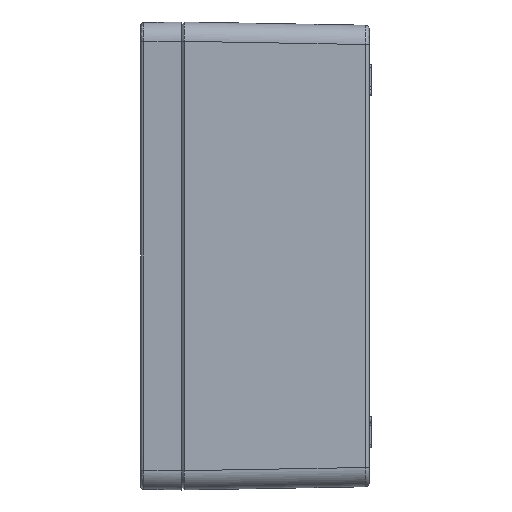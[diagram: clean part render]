
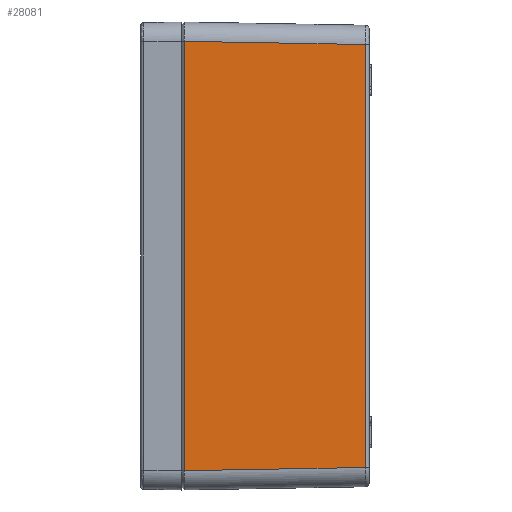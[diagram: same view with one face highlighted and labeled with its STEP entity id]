
A CAD part, left-side view. The second image highlights one B-rep face of the part: STEP entity #28081.
In plain terms, the highlighted planar face has unit normal (-1, -0.018, 0).
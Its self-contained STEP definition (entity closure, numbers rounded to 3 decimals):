
#2297 = ORIENTED_EDGE ( 'NONE', *, *, #21468, .T. ) ;
#2309 = EDGE_LOOP ( 'NONE', ( #20182, #2297, #40724, #31883 ) ) ;
#2327 = CARTESIAN_POINT ( 'NONE',  ( -165.224, -1.5, -105.725 ) ) ;
#2533 = LINE ( 'NONE', #2327, #29117 ) ;
#4069 = CARTESIAN_POINT ( 'NONE',  ( -165.224, -1.5, -115.25 ) ) ;
#4327 = CARTESIAN_POINT ( 'NONE',  ( -163.67, -90.535, 104.171 ) ) ;
#4360 = AXIS2_PLACEMENT_3D ( 'NONE', #19153, #35037, #15506 ) ;
#4964 = EDGE_CURVE ( 'NONE', #12640, #13275, #36257, .T. ) ;
#6787 = EDGE_CURVE ( 'NONE', #31634, #12640, #34319, .T. ) ;
#8358 = DIRECTION ( 'NONE',  ( 0.017, -1., -0.017 ) ) ;
#10282 = LINE ( 'NONE', #4069, #33454 ) ;
#11973 = CARTESIAN_POINT ( 'NONE',  ( -165.224, -1.5, -105.725 ) ) ;
#12640 = VERTEX_POINT ( 'NONE', #4327 ) ;
#13275 = VERTEX_POINT ( 'NONE', #40224 ) ;
#13326 = VECTOR ( 'NONE', #8358, 1000. ) ;
#13719 = DIRECTION ( 'NONE',  ( 0., 0., -1. ) ) ;
#15506 = DIRECTION ( 'NONE',  ( 0.017, -1., 0. ) ) ;
#15724 = FACE_OUTER_BOUND ( 'NONE', #2309, .T. ) ;
#16316 = VERTEX_POINT ( 'NONE', #11973 ) ;
#16715 = DIRECTION ( 'NONE',  ( 0., 0., -1. ) ) ;
#18485 = VECTOR ( 'NONE', #16715, 1000. ) ;
#18493 = CARTESIAN_POINT ( 'NONE',  ( -165.224, -1.5, 105.725 ) ) ;
#19153 = CARTESIAN_POINT ( 'NONE',  ( -165.25, 0., -115.25 ) ) ;
#19698 = EDGE_CURVE ( 'NONE', #16316, #13275, #2533, .T. ) ;
#20182 = ORIENTED_EDGE ( 'NONE', *, *, #6787, .F. ) ;
#21468 = EDGE_CURVE ( 'NONE', #31634, #16316, #10282, .T. ) ;
#25377 = PLANE ( 'NONE',  #4360 ) ;
#28081 = ADVANCED_FACE ( 'NONE', ( #15724 ), #25377, .T. ) ;
#29117 = VECTOR ( 'NONE', #32138, 1000. ) ;
#31634 = VERTEX_POINT ( 'NONE', #18493 ) ;
#31883 = ORIENTED_EDGE ( 'NONE', *, *, #4964, .F. ) ;
#32138 = DIRECTION ( 'NONE',  ( 0.017, -1., 0.017 ) ) ;
#33019 = CARTESIAN_POINT ( 'NONE',  ( -163.67, -90.535, -57.625 ) ) ;
#33454 = VECTOR ( 'NONE', #13719, 1000. ) ;
#33889 = CARTESIAN_POINT ( 'NONE',  ( -165.218, -1.845, 105.719 ) ) ;
#34319 = LINE ( 'NONE', #33889, #13326 ) ;
#35037 = DIRECTION ( 'NONE',  ( -1., -0.017, 0. ) ) ;
#36257 = LINE ( 'NONE', #33019, #18485 ) ;
#40224 = CARTESIAN_POINT ( 'NONE',  ( -163.67, -90.535, -104.171 ) ) ;
#40724 = ORIENTED_EDGE ( 'NONE', *, *, #19698, .T. ) ;
